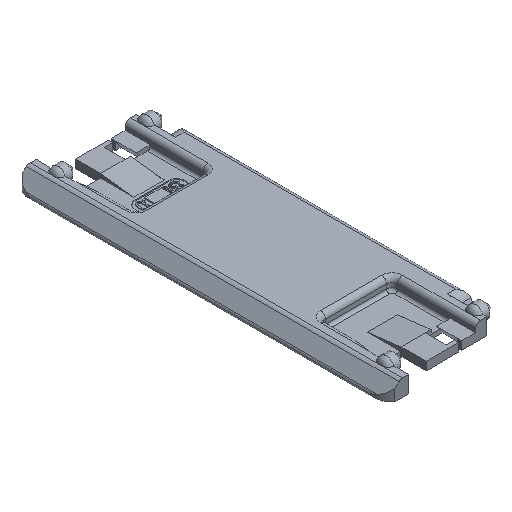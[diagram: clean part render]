
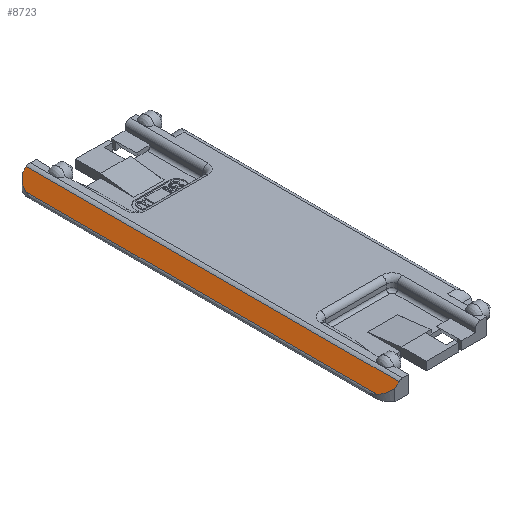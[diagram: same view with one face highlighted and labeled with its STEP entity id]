
A CAD part, isometric view. The second image highlights one B-rep face of the part: STEP entity #8723.
In plain terms, the highlighted planar face has unit normal (-0.669, 0, 0.743).
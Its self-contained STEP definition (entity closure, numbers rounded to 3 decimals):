
#4612=CARTESIAN_POINT('',(-9.001,53.5,1.243));
#4613=VERTEX_POINT('',#4612);
#4645=CARTESIAN_POINT('',(-9.75,53.5,0.568));
#4646=VERTEX_POINT('',#4645);
#4653=CARTESIAN_POINT('',(-9.75,53.5,0.568));
#4654=DIRECTION('',(0.743,0.0,0.669));
#4655=VECTOR('',#4654,1.008);
#4656=LINE('',#4653,#4655);
#4657=EDGE_CURVE('',#4646,#4613,#4656,.T.);
#4824=CARTESIAN_POINT('',(-11.083,51.521,-0.632));
#4825=VERTEX_POINT('',#4824);
#4849=CARTESIAN_POINT('',(-7.25,50.378,2.819));
#4850=DIRECTION('',(-0.669,0.,0.743));
#4851=DIRECTION('',(-0.743,0.,-0.669));
#4852=AXIS2_PLACEMENT_3D('',#4849,#4850,#4851);
#4853=ELLIPSE('',#4852,5.383,4.0);
#4854=EDGE_CURVE('',#4646,#4825,#4853,.T.);
#5934=CARTESIAN_POINT('',(-11.083,-11.521,-0.632));
#5935=VERTEX_POINT('',#5934);
#5957=CARTESIAN_POINT('',(-11.083,-11.521,-0.632));
#5958=DIRECTION('',(0.0,1.0,0.0));
#5959=VECTOR('',#5958,63.041);
#5960=LINE('',#5957,#5959);
#5961=EDGE_CURVE('',#5935,#4825,#5960,.T.);
#6386=CARTESIAN_POINT('',(-9.001,-13.5,1.243));
#6387=VERTEX_POINT('',#6386);
#6388=CARTESIAN_POINT('',(-9.001,53.5,1.243));
#6389=DIRECTION('',(0.0,-1.0,0.0));
#6390=VECTOR('',#6389,67.);
#6391=LINE('',#6388,#6390);
#6392=EDGE_CURVE('',#4613,#6387,#6391,.T.);
#7515=CARTESIAN_POINT('',(-9.75,-13.5,0.568));
#7516=VERTEX_POINT('',#7515);
#7517=CARTESIAN_POINT('',(-9.75,-13.5,0.568));
#7518=DIRECTION('',(0.743,0.,0.669));
#7519=VECTOR('',#7518,1.008);
#7520=LINE('',#7517,#7519);
#7521=EDGE_CURVE('',#7516,#6387,#7520,.T.);
#7705=CARTESIAN_POINT('',(-7.25,-10.378,2.819));
#7706=DIRECTION('',(0.669,0.,-0.743));
#7707=DIRECTION('',(-0.743,0.,-0.669));
#7708=AXIS2_PLACEMENT_3D('',#7705,#7706,#7707);
#7709=ELLIPSE('',#7708,5.383,4.0);
#7710=EDGE_CURVE('',#7516,#5935,#7709,.T.);
#8710=CARTESIAN_POINT('',(-8.715,23.5,1.5));
#8711=DIRECTION('',(0.669,0.0,-0.743));
#8712=DIRECTION('',(-0.743,0.0,-0.669));
#8713=AXIS2_PLACEMENT_3D('',#8710,#8711,#8712);
#8714=PLANE('',#8713);
#8715=ORIENTED_EDGE('',*,*,#5961,.F.);
#8716=ORIENTED_EDGE('',*,*,#7710,.F.);
#8717=ORIENTED_EDGE('',*,*,#7521,.T.);
#8718=ORIENTED_EDGE('',*,*,#6392,.F.);
#8719=ORIENTED_EDGE('',*,*,#4657,.F.);
#8720=ORIENTED_EDGE('',*,*,#4854,.T.);
#8721=EDGE_LOOP('',(#8715,#8716,#8717,#8718,#8719,#8720));
#8722=FACE_OUTER_BOUND('',#8721,.T.);
#8723=ADVANCED_FACE('',(#8722),#8714,.F.);
